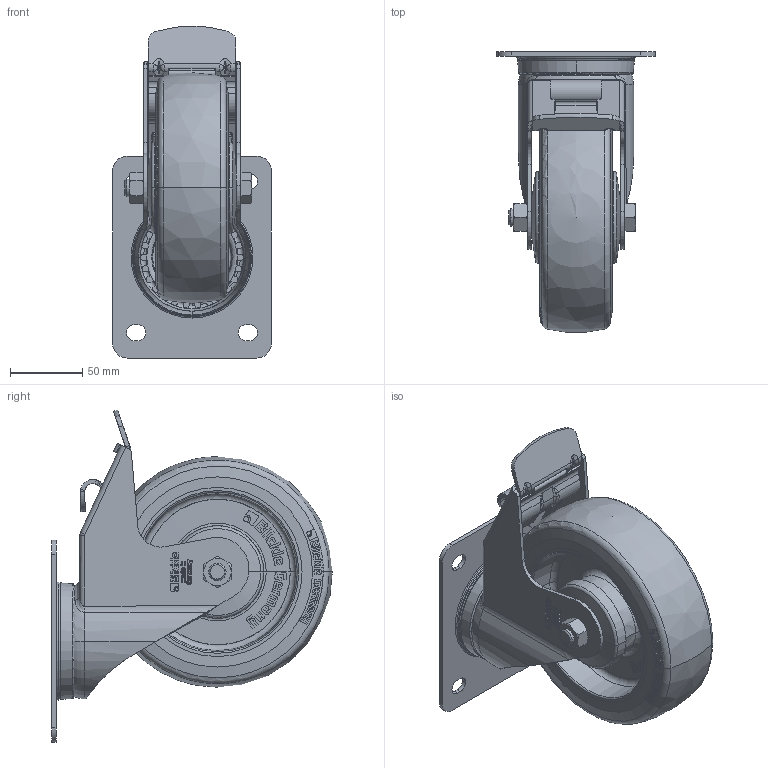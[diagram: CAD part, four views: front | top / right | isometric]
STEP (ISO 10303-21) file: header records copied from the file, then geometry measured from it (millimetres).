
FILE_DESCRIPTION (( 'STEP AP214' ), '1' );
FILE_NAME ('LEX-POBS_160XKA-FI_901236-214.step', '2021-12-20T09:35:49', ( '' ), ( '' ), 'SwSTEP 2.0', 'SolidWorks 2018', '' );
FILE_SCHEMA (( 'AUTOMOTIVE_DESIGN' ));
Length unit declared in the file: millimetre
Products named in the file (5): GH-LEX_80-200_GH-LEX-160x60-03-FIW_12x62; POBS_160_12XKA_G16_3D; POBS_3D_G16_POBS_160_12XKA_745619; LEX-POBS_160XKA-FI_901236-214; GH-LEX-160x60-03-FIW_12x62_G16_3D
Assembly tree (4 placements, depth 3):
  LEX-POBS_160XKA-FI_901236-214
    GH-LEX_80-200_GH-LEX-160x60-03-FIW_12x62
      GH-LEX-160x60-03-FIW_12x62_G16_3D
    POBS_3D_G16_POBS_160_12XKA_745619
      POBS_160_12XKA_G16_3D
Bounding box: 110 x 194.72 x 230.41 mm (x, y, z)
Volume: 838662.9 mm3; surface area: 245257.7 mm2
Topology: 2 solids, 9 shells, 3596 faces, 9826 edges, 6396 vertices
Faces by surface type: plane 1478, bspline 1062, cylinder 497, torus 293, cone 256, sphere 10
Entity records: 145904 total; most frequent: CARTESIAN_POINT 56034, ORIENTED_EDGE 19642, DIRECTION 13189, EDGE_CURVE 9821, VERTEX_POINT 6393, LINE 4505, VECTOR 4505, AXIS2_PLACEMENT_3D 4342
